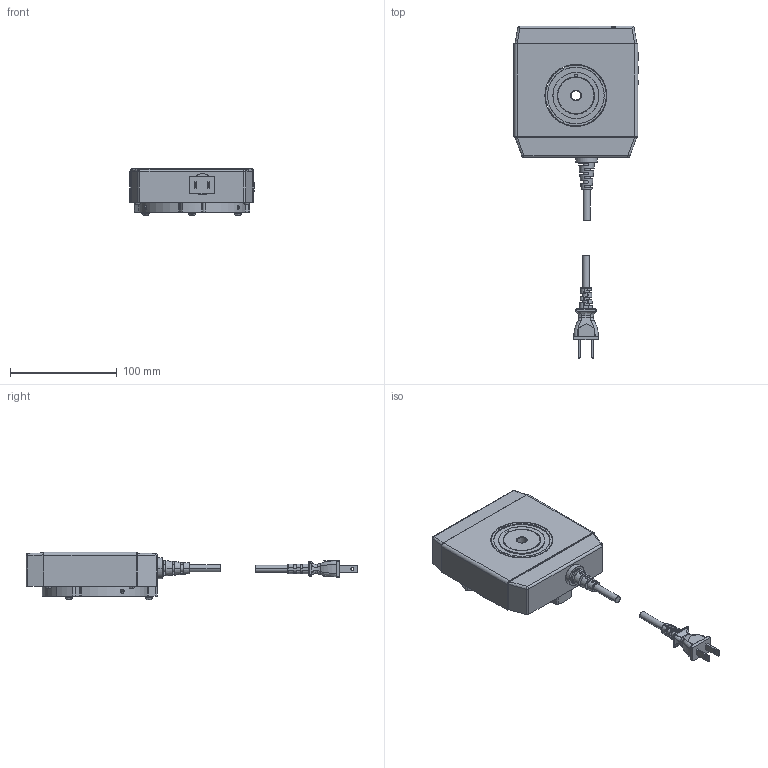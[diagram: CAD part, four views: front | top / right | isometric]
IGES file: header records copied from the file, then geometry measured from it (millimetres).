
Start section: SolidWorks IGES file using analytic representation for surfaces
Bounding box: 116.2 x 310.92 x 44.4 mm (x, y, z)
Surface area: 77493.6 mm2 (no closed solid volume)
Topology: 0 solids, 0 shells, 752 faces, 10292 edges, 10288 vertices
Faces by surface type: bspline 502, revolution 250
